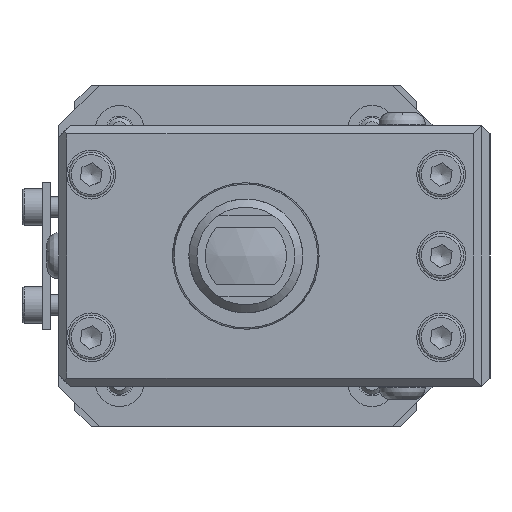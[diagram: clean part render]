
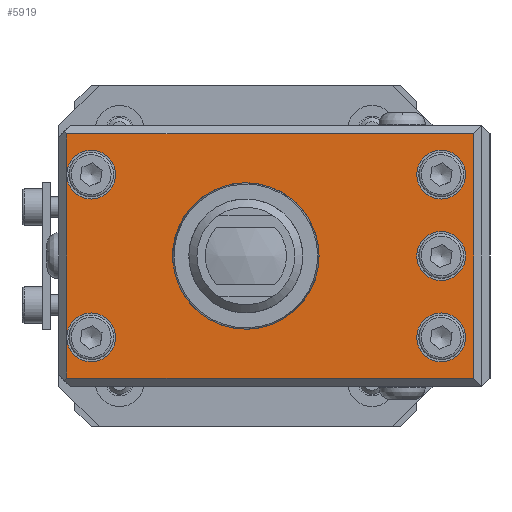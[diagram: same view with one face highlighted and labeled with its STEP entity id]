
A CAD part, left-side view. The second image highlights one B-rep face of the part: STEP entity #5919.
In plain terms, the highlighted planar face has unit normal (-1, 0, 0).
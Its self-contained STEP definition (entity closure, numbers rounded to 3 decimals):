
#369=LINE($,#9623,#794);
#380=LINE($,#9648,#805);
#383=LINE($,#9654,#808);
#384=LINE($,#9656,#809);
#385=LINE($,#9657,#810);
#387=LINE($,#9660,#812);
#794=VECTOR($,#7797,50.);
#805=VECTOR($,#7818,50.);
#808=VECTOR($,#7823,5.);
#809=VECTOR($,#7824,20.);
#810=VECTOR($,#7825,5.);
#812=VECTOR($,#7829,30.);
#1292=FACE_BOUND($,#2117,.T.);
#1293=FACE_BOUND($,#2118,.T.);
#1294=FACE_BOUND($,#2119,.T.);
#1295=FACE_BOUND($,#2120,.T.);
#1296=FACE_BOUND($,#2121,.T.);
#2117=EDGE_LOOP($,(#4714));
#2118=EDGE_LOOP($,(#4715,#4716,#4717,#4718,#4719,#4720,#4721,#4722));
#2119=EDGE_LOOP($,(#4723));
#2120=EDGE_LOOP($,(#4724));
#2121=EDGE_LOOP($,(#4725));
#2483=CIRCLE($,#6486,9.);
#2495=CIRCLE($,#6511,3.);
#2496=CIRCLE($,#6512,3.);
#2497=CIRCLE($,#6513,3.);
#2498=CIRCLE($,#6514,3.);
#2499=CIRCLE($,#6515,3.);
#2882=VERTEX_POINT($,#9581);
#2898=VERTEX_POINT($,#9620);
#2899=VERTEX_POINT($,#9622);
#2907=VERTEX_POINT($,#9645);
#2908=VERTEX_POINT($,#9647);
#2910=VERTEX_POINT($,#9653);
#2911=VERTEX_POINT($,#9655);
#2912=VERTEX_POINT($,#9668);
#2913=VERTEX_POINT($,#9670);
#2914=VERTEX_POINT($,#9672);
#3538=EDGE_CURVE($,#2882,#2882,#2483,.T.);
#3556=EDGE_CURVE($,#2898,#2899,#369,.T.);
#3569=EDGE_CURVE($,#2907,#2908,#380,.T.);
#3572=EDGE_CURVE($,#2899,#2910,#383,.T.);
#3573=EDGE_CURVE($,#2910,#2911,#384,.T.);
#3574=EDGE_CURVE($,#2911,#2907,#385,.T.);
#3576=EDGE_CURVE($,#2908,#2898,#387,.T.);
#3580=EDGE_CURVE($,#2911,#2911,#2495,.T.);
#3581=EDGE_CURVE($,#2910,#2910,#2496,.T.);
#3582=EDGE_CURVE($,#2912,#2912,#2497,.T.);
#3583=EDGE_CURVE($,#2913,#2913,#2498,.T.);
#3584=EDGE_CURVE($,#2914,#2914,#2499,.T.);
#4714=ORIENTED_EDGE($,*,*,#3538,.T.);
#4715=ORIENTED_EDGE($,*,*,#3580,.T.);
#4716=ORIENTED_EDGE($,*,*,#3573,.F.);
#4717=ORIENTED_EDGE($,*,*,#3581,.T.);
#4718=ORIENTED_EDGE($,*,*,#3572,.F.);
#4719=ORIENTED_EDGE($,*,*,#3556,.F.);
#4720=ORIENTED_EDGE($,*,*,#3576,.F.);
#4721=ORIENTED_EDGE($,*,*,#3569,.F.);
#4722=ORIENTED_EDGE($,*,*,#3574,.F.);
#4723=ORIENTED_EDGE($,*,*,#3582,.T.);
#4724=ORIENTED_EDGE($,*,*,#3583,.T.);
#4725=ORIENTED_EDGE($,*,*,#3584,.T.);
#5569=PLANE($,#6510);
#5919=ADVANCED_FACE($,(#1292,#1293,#1294,#1295,#1296),#5569,.T.);
#6486=AXIS2_PLACEMENT_3D($,#9582,#7757,#7758);
#6510=AXIS2_PLACEMENT_3D($,#9665,#7835,#7836);
#6511=AXIS2_PLACEMENT_3D($,#9666,#7837,#7838);
#6512=AXIS2_PLACEMENT_3D($,#9667,#7839,#7840);
#6513=AXIS2_PLACEMENT_3D($,#9669,#7841,#7842);
#6514=AXIS2_PLACEMENT_3D($,#9671,#7843,#7844);
#6515=AXIS2_PLACEMENT_3D($,#9673,#7845,#7846);
#7757=DIRECTION('center_axis',(1.,0.,0.));
#7758=DIRECTION('ref_axis',(0.,0.,
-1.));
#7797=DIRECTION($,(0.,1.,0.));
#7818=DIRECTION($,(0.,-1.,0.));
#7823=DIRECTION($,(0.,0.,1.));
#7824=DIRECTION($,(0.,0.,1.));
#7825=DIRECTION($,(0.,0.,1.));
#7829=DIRECTION($,(0.,0.,-1.));
#7835=DIRECTION('center_axis',(-1.,0.,0.));
#7836=DIRECTION('ref_axis',(0.,0.,1.));
#7837=DIRECTION('center_axis',(1.,0.,0.));
#7838=DIRECTION('ref_axis',(0.,0.,
-1.));
#7839=DIRECTION('center_axis',(1.,0.,0.));
#7840=DIRECTION('ref_axis',(0.,0.,
1.));
#7841=DIRECTION('center_axis',(1.,0.,0.));
#7842=DIRECTION('ref_axis',(0.,0.,
1.));
#7843=DIRECTION('center_axis',(1.,0.,0.));
#7844=DIRECTION('ref_axis',(0.,0.,
1.));
#7845=DIRECTION('center_axis',(1.,0.,0.));
#7846=DIRECTION('ref_axis',(0.,0.,
1.));
#9581=CARTESIAN_POINT('',(-80.,3.5,9.));
#9582=CARTESIAN_POINT('Origin',(-80.,3.5,0.));
#9620=CARTESIAN_POINT('',(-80.,-24.5,-15.));
#9622=CARTESIAN_POINT('',(-80.,25.5,-15.));
#9623=CARTESIAN_POINT($,(-80.,13.5,-15.));
#9645=CARTESIAN_POINT('',(-80.,25.5,15.));
#9647=CARTESIAN_POINT('',(-80.,-24.5,15.));
#9648=CARTESIAN_POINT($,(-80.,-12.5,15.));
#9653=CARTESIAN_POINT('',(-80.,25.5,-10.));
#9654=CARTESIAN_POINT($,(-80.,25.5,8.));
#9655=CARTESIAN_POINT('',(-80.,25.5,10.));
#9656=CARTESIAN_POINT($,(-80.,25.5,8.));
#9657=CARTESIAN_POINT($,(-80.,25.5,8.));
#9660=CARTESIAN_POINT($,(-80.,-24.5,-8.));
#9665=CARTESIAN_POINT('Origin',(-80.,0.5,0.));
#9666=CARTESIAN_POINT('Origin',(-80.,22.5,10.));
#9667=CARTESIAN_POINT('Origin',(-80.,22.5,-10.));
#9668=CARTESIAN_POINT('',(-80.,-20.5,-7.));
#9669=CARTESIAN_POINT('Origin',(-80.,-20.5,-10.));
#9670=CARTESIAN_POINT('',(-80.,-20.5,3.));
#9671=CARTESIAN_POINT('Origin',(-80.,-20.5,0.));
#9672=CARTESIAN_POINT('',(-80.,-20.5,13.));
#9673=CARTESIAN_POINT('Origin',(-80.,-20.5,10.));
